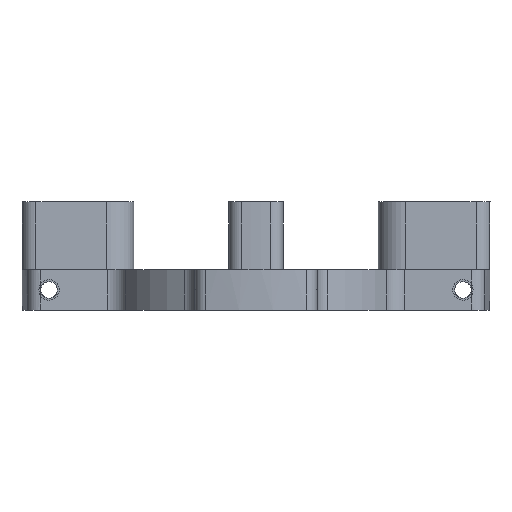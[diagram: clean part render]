
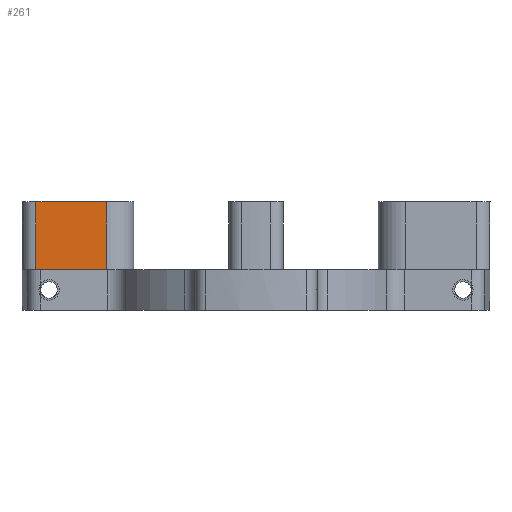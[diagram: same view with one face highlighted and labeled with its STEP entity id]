
A CAD part, front view. The second image highlights one B-rep face of the part: STEP entity #261.
In plain terms, the highlighted planar face has unit normal (0, -1, 0).
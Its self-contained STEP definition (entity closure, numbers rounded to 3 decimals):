
#261=ADVANCED_FACE('',(#439),#1832,.T.);
#439=FACE_OUTER_BOUND('',#628,.F.);
#628=EDGE_LOOP('',(#1089,#1090,#1091,#1092));
#1089=ORIENTED_EDGE('',*,*,#2641,.F.);
#1090=ORIENTED_EDGE('',*,*,#2684,.F.);
#1091=ORIENTED_EDGE('',*,*,#2678,.T.);
#1092=ORIENTED_EDGE('',*,*,#2683,.T.);
#1832=PLANE('',#3697);
#2106=LINE('',#5581,#2310);
#2115=LINE('',#5618,#2319);
#2117=LINE('',#5623,#2321);
#2118=LINE('',#5624,#2322);
#2310=VECTOR('',#4095,10.438);
#2319=VECTOR('',#4160,10.438);
#2321=VECTOR('',#4168,10.);
#2322=VECTOR('',#4169,10.);
#2641=EDGE_CURVE('',#3238,#3237,#2106,.T.);
#2678=EDGE_CURVE('',#3216,#3218,#2115,.T.);
#2683=EDGE_CURVE('',#3218,#3237,#2117,.T.);
#2684=EDGE_CURVE('',#3216,#3238,#2118,.T.);
#3216=VERTEX_POINT('',#4886);
#3218=VERTEX_POINT('',#4888);
#3237=VERTEX_POINT('',#4907);
#3238=VERTEX_POINT('',#4908);
#3697=AXIS2_PLACEMENT_3D('',#5785,#4410,#4411);
#4095=DIRECTION('',(1.,0.,0.));
#4160=DIRECTION('',(1.,0.,0.));
#4168=DIRECTION('',(0.,0.,-1.));
#4169=DIRECTION('',(0.,0.,-1.));
#4410=DIRECTION('',(0.,-1.,0.));
#4411=DIRECTION('',(1.,0.,0.));
#4886=CARTESIAN_POINT('',(251.937,415.252,375.374));
#4888=CARTESIAN_POINT('',(262.375,415.252,375.374));
#4907=CARTESIAN_POINT('',(262.375,415.252,365.374));
#4908=CARTESIAN_POINT('',(251.937,415.252,365.374));
#5581=CARTESIAN_POINT('',(251.937,415.252,365.374));
#5618=CARTESIAN_POINT('',(251.937,415.252,375.374));
#5623=CARTESIAN_POINT('',(262.375,415.252,375.374));
#5624=CARTESIAN_POINT('',(251.937,415.252,375.374));
#5785=CARTESIAN_POINT('',(251.832,415.252,365.269));
